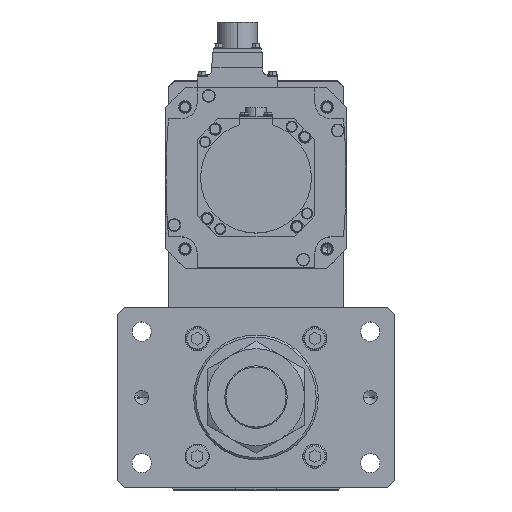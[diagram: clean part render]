
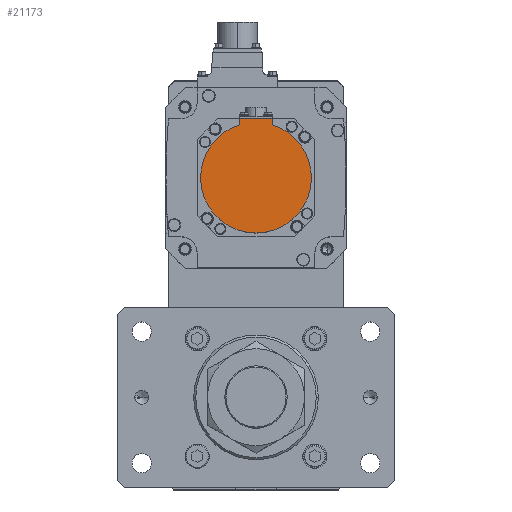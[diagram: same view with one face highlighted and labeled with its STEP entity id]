
A CAD part, top view. The second image highlights one B-rep face of the part: STEP entity #21173.
In plain terms, the highlighted planar face has unit normal (0, 0, 1) as drawn and (0, 0, -1) by its records, which use the part's own axes.
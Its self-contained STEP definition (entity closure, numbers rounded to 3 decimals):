
#1153 = DIRECTION ( 'NONE',  ( 0., 0., 1. ) ) ;
#1298 = EDGE_CURVE ( 'NONE', #19025, #3223, #23348, .T. ) ;
#2190 = CARTESIAN_POINT ( 'NONE',  ( 0., -1.249, -146.5 ) ) ;
#2780 = CARTESIAN_POINT ( 'NONE',  ( 12., -38.158, -146.5 ) ) ;
#2944 = AXIS2_PLACEMENT_3D ( 'NONE', #2190, #7346, #20488 ) ;
#3223 = VERTEX_POINT ( 'NONE', #29197 ) ;
#4143 = ORIENTED_EDGE ( 'NONE', *, *, #24545, .F. ) ;
#4982 = EDGE_CURVE ( 'NONE', #12687, #6209, #8050, .T. ) ;
#5064 = VECTOR ( 'NONE', #14193, 1000. ) ;
#5959 = EDGE_CURVE ( 'NONE', #25065, #12687, #23014, .T. ) ;
#6209 = VERTEX_POINT ( 'NONE', #17919 ) ;
#7213 = VECTOR ( 'NONE', #33345, 1000. ) ;
#7346 = DIRECTION ( 'NONE',  ( 0., 0., 1. ) ) ;
#7714 = AXIS2_PLACEMENT_3D ( 'NONE', #18386, #10354, #21108 ) ;
#8050 = LINE ( 'NONE', #33238, #7213 ) ;
#10354 = DIRECTION ( 'NONE',  ( 0., 0., 1. ) ) ;
#11150 = CARTESIAN_POINT ( 'NONE',  ( 0., -42.5, -146.5 ) ) ;
#11629 = CARTESIAN_POINT ( 'NONE',  ( 0., 0., -146.5 ) ) ;
#12187 = DIRECTION ( 'NONE',  ( 1., 0., 0. ) ) ;
#12303 = DIRECTION ( 'NONE',  ( 0., 0., 1. ) ) ;
#12660 = ORIENTED_EDGE ( 'NONE', *, *, #1298, .F. ) ;
#12687 = VERTEX_POINT ( 'NONE', #15829 ) ;
#13306 = CIRCLE ( 'NONE', #13823, 40. ) ;
#13823 = AXIS2_PLACEMENT_3D ( 'NONE', #25518, #12303, #12187 ) ;
#13934 = CARTESIAN_POINT ( 'NONE',  ( 12., -42.5, -146.5 ) ) ;
#14064 = VECTOR ( 'NONE', #32688, 1000. ) ;
#14193 = DIRECTION ( 'NONE',  ( -1., 0., 0. ) ) ;
#15227 = EDGE_CURVE ( 'NONE', #3223, #6209, #21930, .T. ) ;
#15337 = VERTEX_POINT ( 'NONE', #2780 ) ;
#15829 = CARTESIAN_POINT ( 'NONE',  ( -12., -42.5, -146.5 ) ) ;
#16446 = CARTESIAN_POINT ( 'NONE',  ( 12., -1.249, -146.5 ) ) ;
#16926 = ORIENTED_EDGE ( 'NONE', *, *, #5959, .T. ) ;
#17007 = LINE ( 'NONE', #16446, #14064 ) ;
#17369 = DIRECTION ( 'NONE',  ( 1., 0., 0. ) ) ;
#17919 = CARTESIAN_POINT ( 'NONE',  ( -12., -38.158, -146.5 ) ) ;
#17920 = PLANE ( 'NONE',  #2944 ) ;
#18032 = ORIENTED_EDGE ( 'NONE', *, *, #15227, .F. ) ;
#18386 = CARTESIAN_POINT ( 'NONE',  ( 0., 0., -146.5 ) ) ;
#19025 = VERTEX_POINT ( 'NONE', #22202 ) ;
#20488 = DIRECTION ( 'NONE',  ( 1., 0., 0. ) ) ;
#21108 = DIRECTION ( 'NONE',  ( 1., 0., 0. ) ) ;
#21173 = ADVANCED_FACE ( 'NONE', ( #32830 ), #17920, .F. ) ;
#21930 = CIRCLE ( 'NONE', #7714, 40. ) ;
#22202 = CARTESIAN_POINT ( 'NONE',  ( 40., 0., -146.5 ) ) ;
#22556 = ORIENTED_EDGE ( 'NONE', *, *, #29467, .F. ) ;
#23014 = LINE ( 'NONE', #11150, #5064 ) ;
#23348 = CIRCLE ( 'NONE', #32137, 40. ) ;
#23913 = EDGE_LOOP ( 'NONE', ( #28283, #18032, #12660, #22556, #4143, #16926 ) ) ;
#24545 = EDGE_CURVE ( 'NONE', #25065, #15337, #17007, .T. ) ;
#25065 = VERTEX_POINT ( 'NONE', #13934 ) ;
#25518 = CARTESIAN_POINT ( 'NONE',  ( 0., 0., -146.5 ) ) ;
#28283 = ORIENTED_EDGE ( 'NONE', *, *, #4982, .T. ) ;
#29197 = CARTESIAN_POINT ( 'NONE',  ( -40., 0., -146.5 ) ) ;
#29467 = EDGE_CURVE ( 'NONE', #15337, #19025, #13306, .T. ) ;
#32137 = AXIS2_PLACEMENT_3D ( 'NONE', #11629, #1153, #17369 ) ;
#32688 = DIRECTION ( 'NONE',  ( 0., 1., 0. ) ) ;
#32830 = FACE_OUTER_BOUND ( 'NONE', #23913, .T. ) ;
#33238 = CARTESIAN_POINT ( 'NONE',  ( -12., -40.329, -146.5 ) ) ;
#33345 = DIRECTION ( 'NONE',  ( 0., 1., 0. ) ) ;
